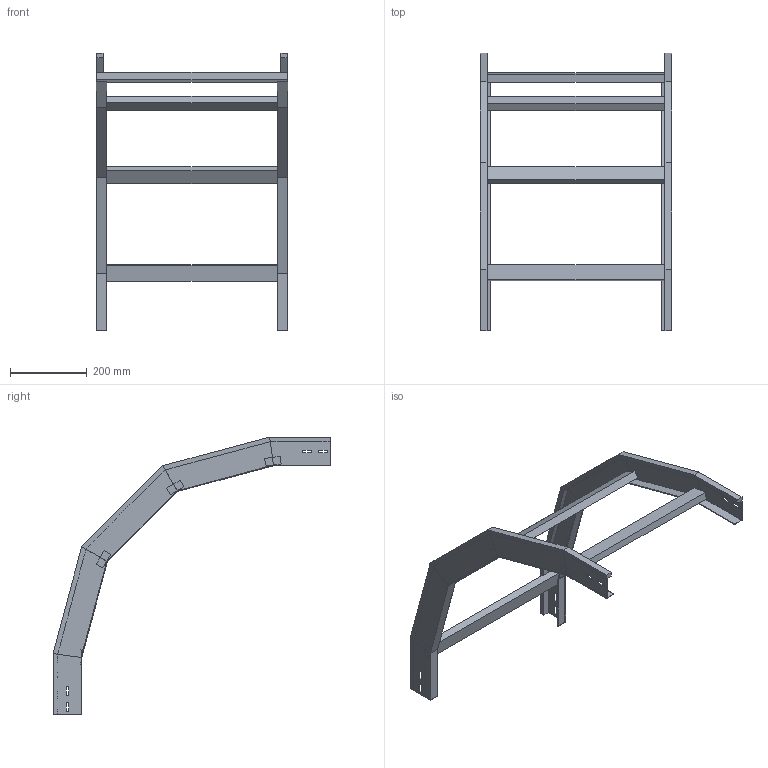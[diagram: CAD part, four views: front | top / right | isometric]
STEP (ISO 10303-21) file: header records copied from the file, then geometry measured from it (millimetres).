
FILE_DESCRIPTION (( 'STEP AP214' ), '1' );
FILE_NAME ('33B5C500.step', '2025-02-21T15:05:00', ( '' ), ( '' ), 'SwSTEP 2.0', 'SolidWorks 2023', '' );
FILE_SCHEMA (( 'AUTOMOTIVE_DESIGN' ));
Length unit declared in the file: millimetre
Products named in the file (3): TRAVERSINO_500; 33B5C500; LONGH.DISCESA_90°_H75_R500
Assembly tree (6 placements, depth 2):
  33B5C500
    LONGH.DISCESA_90°_H75_R500  x2
    TRAVERSINO_500  x4
Bounding box: 500 x 725.35 x 725.35 mm (x, y, z)
Volume: 2509437.3 mm3; surface area: 780600 mm2
Topology: 6 solids, 6 shells, 140 faces, 320 edges, 192 vertices
Faces by surface type: plane 140
Entity records: 1872 total; most frequent: CARTESIAN_POINT 309, ORIENTED_EDGE 296, DIRECTION 294, LINE 148, VECTOR 148, EDGE_CURVE 148, VERTEX_POINT 88, AXIS2_PLACEMENT_3D 73
